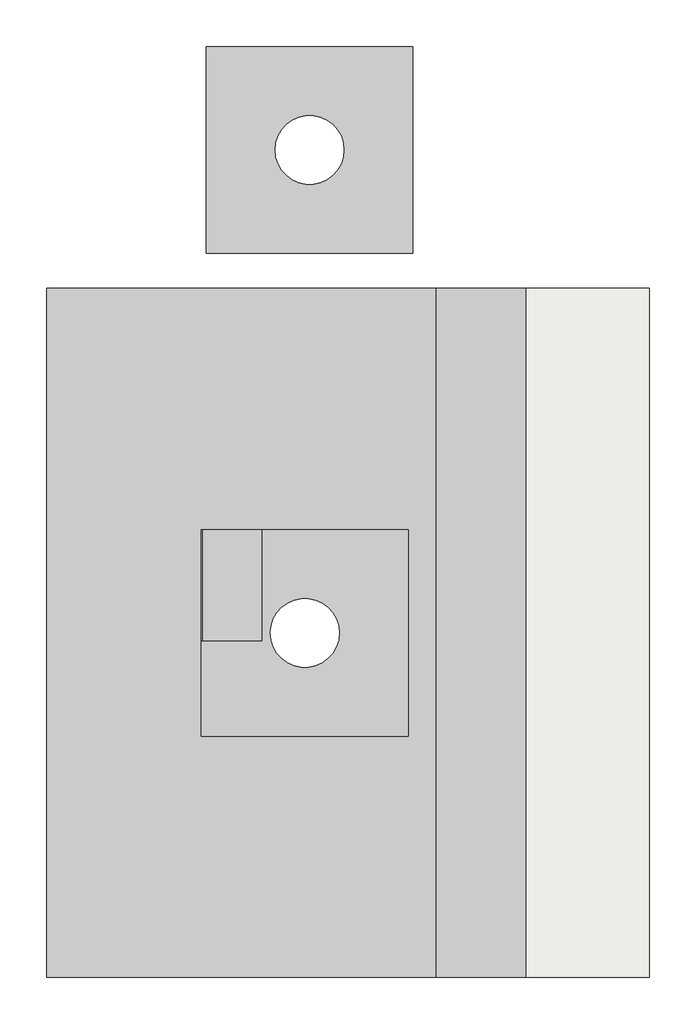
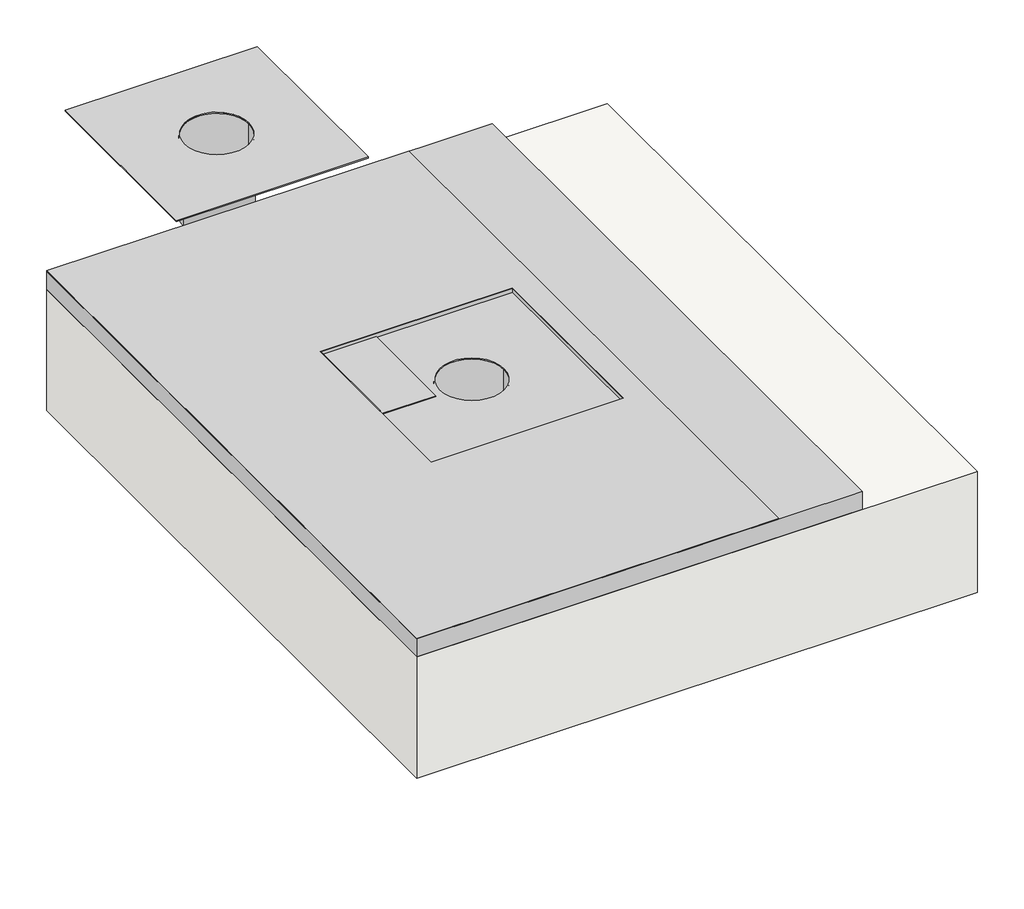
# One storey: 3 proxies, 1 slab.
"""IFC4 building model written with IfcOpenShell, lengths in millimetres."""

from ifc_helpers import new_model, si_unit, point, frame, frame_2d, origin, place, context, project, spatial, polyline, circle_curve, trimmed, segment, composite_curve, outline, extrude, transform, mapped, element, save
from components import generic_models_effe8710, generic_models_2d76c1d5, entourage_4fe8ca71

model = new_model("IFC4")

# Units and contexts
model_context = context("Model", 3, world=origin())
ifc_project = project(units=[si_unit("LENGTHUNIT", "METRE", prefix="MILLI")], contexts=[model_context])

# Site, building, storey
site = spatial("IfcSite", under=ifc_project)
building = spatial("IfcBuilding", under=site)
storey = spatial("IfcBuildingStorey", under=building, Name="ARQ Térreo", Elevation=-2.523798)

# Proxies
placement = place(None, origin())
generic_models_shape = generic_models_effe8710(model_context)
element("IfcBuildingElementProxy", 1, Name="IMPER:IMPER:433934 : IMPER:IMPER:433934", ObjectType="IMPER:IMPER:433934 : IMPER:IMPER:433934", at=placement, inside=storey, context=model_context, shape_type="MappedRepresentation", body=[
    mapped(generic_models_shape, transform((0.0, 0.0, 0.0), x_axis=(1.0, 0.0, 0.0), y_axis=(0.0, 1.0, 0.0), z_axis=(0.0, 0.0, 1.0))),
])
generic_models_2_shape = generic_models_2d76c1d5(model_context)
element("IfcBuildingElementProxy", 2, Name="Modelos genéricos 1 : Modelos genéricos 1", ObjectType="Modelos genéricos 1 : Modelos genéricos 1", at=placement, inside=storey, context=model_context, shape_type="MappedRepresentation", body=[
    mapped(generic_models_2_shape, transform((0.0, 0.0, 0.0), x_axis=(1.0, 0.0, 0.0), y_axis=(0.0, 1.0, 0.0), z_axis=(0.0, 0.0, 1.0))),
])
entourage_shape = entourage_4fe8ca71(model_context)
element("IfcBuildingElementProxy", 3, Name="Viaboc Ralo 100mm : Viaboc Ralo 100mm", ObjectType="Viaboc Ralo 100mm : Viaboc Ralo 100mm", at=placement, inside=storey, context=model_context, shape_type="MappedRepresentation", body=[
    mapped(entourage_shape, transform((929.5519189, -536.9387185, -2.523798), x_axis=(1.0, 0.0, 0.0), y_axis=(0.0, 1.0, 0.0), z_axis=(0.0, 0.0, 1.0))),
])

# Slab
element("IfcSlab", 4, ObjectType="Piso:LAJE CONCRETO", at=placement, inside=storey, context=model_context, shape_type="SweptSolid", body=[
    extrude(outline(polyline([(1422.8103968, -1738.0570215), (547.8103968, -1738.0570215), (547.8103968, -738.0570215), (1422.8103968, -738.0570215), (1422.8103968, -1738.0570215)]), holes=[composite_curve([segment(trimmed(circle_curve(frame_2d((922.8103968, -1238.0570215)), 54.0), [point((868.8103968, -1238.0570215))], [point((976.8103968, -1238.0570215))], True, "CARTESIAN"), True, "CONTINUOUS"), segment(trimmed(circle_curve(frame_2d((922.8103968, -1238.0570215)), 54.0), [point((976.8103968, -1238.0570215))], [point((868.8103968, -1238.0570215))], True, "CARTESIAN"), True, "CONTINUOUS")], self_intersect=False)]), frame((0.0, 0.0, -202.523798), z_axis=(0.0, 0.0, 1.0), x_axis=(1.0, 0.0, 0.0)), (0.0, 0.0, 1.0), 200.0),
])

save(model, "model.ifc")
